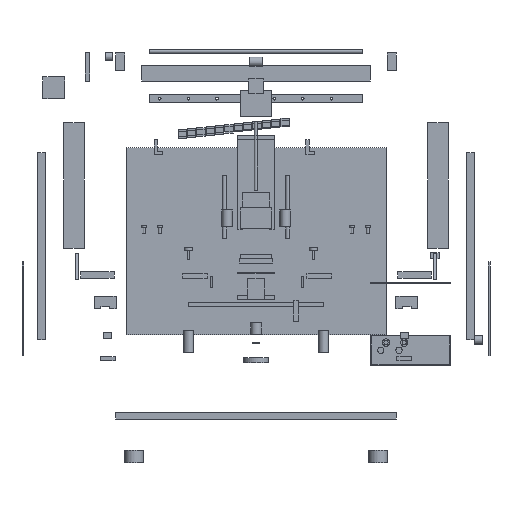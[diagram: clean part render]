
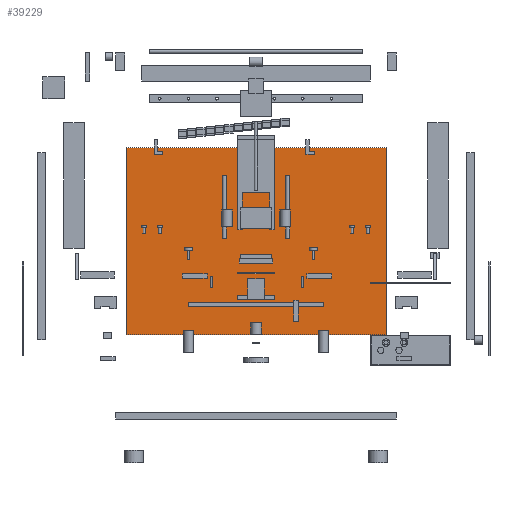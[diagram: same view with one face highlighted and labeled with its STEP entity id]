
A CAD part, front view. The second image highlights one B-rep face of the part: STEP entity #39229.
In plain terms, the highlighted planar face has unit normal (0, -1, 0).
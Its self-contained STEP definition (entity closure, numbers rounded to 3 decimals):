
#39013 = EDGE_CURVE('',#39014,#39016,#39018,.T.);
#39014 = VERTEX_POINT('',#39015);
#39015 = CARTESIAN_POINT('',(0.,0.,0.));
#39016 = VERTEX_POINT('',#39017);
#39017 = CARTESIAN_POINT('',(0.,0.,360.));
#39018 = SURFACE_CURVE('',#39019,(#39023,#39035),.PCURVE_S1.);
#39019 = LINE('',#39020,#39021);
#39020 = CARTESIAN_POINT('',(0.,0.,0.));
#39021 = VECTOR('',#39022,1.);
#39022 = DIRECTION('',(0.,0.,1.));
#39023 = PCURVE('',#39024,#39029);
#39024 = PLANE('',#39025);
#39025 = AXIS2_PLACEMENT_3D('',#39026,#39027,#39028);
#39026 = CARTESIAN_POINT('',(0.,0.,0.));
#39027 = DIRECTION('',(1.,0.,-0.));
#39028 = DIRECTION('',(0.,0.,1.));
#39029 = DEFINITIONAL_REPRESENTATION('',(#39030),#39034);
#39030 = LINE('',#39031,#39032);
#39031 = CARTESIAN_POINT('',(0.,0.));
#39032 = VECTOR('',#39033,1.);
#39033 = DIRECTION('',(1.,0.));
#39034 = ( GEOMETRIC_REPRESENTATION_CONTEXT(2) 
PARAMETRIC_REPRESENTATION_CONTEXT() REPRESENTATION_CONTEXT('2D SPACE',''
  ) );
#39035 = PCURVE('',#39036,#39041);
#39036 = PLANE('',#39037);
#39037 = AXIS2_PLACEMENT_3D('',#39038,#39039,#39040);
#39038 = CARTESIAN_POINT('',(0.,0.,0.));
#39039 = DIRECTION('',(-0.,1.,0.));
#39040 = DIRECTION('',(0.,0.,1.));
#39041 = DEFINITIONAL_REPRESENTATION('',(#39042),#39046);
#39042 = LINE('',#39043,#39044);
#39043 = CARTESIAN_POINT('',(0.,0.));
#39044 = VECTOR('',#39045,1.);
#39045 = DIRECTION('',(1.,0.));
#39046 = ( GEOMETRIC_REPRESENTATION_CONTEXT(2) 
PARAMETRIC_REPRESENTATION_CONTEXT() REPRESENTATION_CONTEXT('2D SPACE',''
  ) );
#39064 = PLANE('',#39065);
#39065 = AXIS2_PLACEMENT_3D('',#39066,#39067,#39068);
#39066 = CARTESIAN_POINT('',(0.,0.,0.));
#39067 = DIRECTION('',(0.,0.,1.));
#39068 = DIRECTION('',(1.,0.,-0.));
#39118 = PLANE('',#39119);
#39119 = AXIS2_PLACEMENT_3D('',#39120,#39121,#39122);
#39120 = CARTESIAN_POINT('',(0.,0.,360.));
#39121 = DIRECTION('',(0.,0.,1.));
#39122 = DIRECTION('',(1.,0.,-0.));
#39133 = EDGE_CURVE('',#39134,#39136,#39138,.T.);
#39134 = VERTEX_POINT('',#39135);
#39135 = CARTESIAN_POINT('',(500.,0.,0.));
#39136 = VERTEX_POINT('',#39137);
#39137 = CARTESIAN_POINT('',(500.,0.,360.));
#39138 = SURFACE_CURVE('',#39139,(#39143,#39155),.PCURVE_S1.);
#39139 = LINE('',#39140,#39141);
#39140 = CARTESIAN_POINT('',(500.,0.,0.));
#39141 = VECTOR('',#39142,1.);
#39142 = DIRECTION('',(0.,0.,1.));
#39143 = PCURVE('',#39144,#39149);
#39144 = PLANE('',#39145);
#39145 = AXIS2_PLACEMENT_3D('',#39146,#39147,#39148);
#39146 = CARTESIAN_POINT('',(500.,0.,0.));
#39147 = DIRECTION('',(1.,0.,-0.));
#39148 = DIRECTION('',(0.,0.,1.));
#39149 = DEFINITIONAL_REPRESENTATION('',(#39150),#39154);
#39150 = LINE('',#39151,#39152);
#39151 = CARTESIAN_POINT('',(0.,0.));
#39152 = VECTOR('',#39153,1.);
#39153 = DIRECTION('',(1.,0.));
#39154 = ( GEOMETRIC_REPRESENTATION_CONTEXT(2) 
PARAMETRIC_REPRESENTATION_CONTEXT() REPRESENTATION_CONTEXT('2D SPACE',''
  ) );
#39155 = PCURVE('',#39036,#39156);
#39156 = DEFINITIONAL_REPRESENTATION('',(#39157),#39161);
#39157 = LINE('',#39158,#39159);
#39158 = CARTESIAN_POINT('',(0.,500.));
#39159 = VECTOR('',#39160,1.);
#39160 = DIRECTION('',(1.,0.));
#39161 = ( GEOMETRIC_REPRESENTATION_CONTEXT(2) 
PARAMETRIC_REPRESENTATION_CONTEXT() REPRESENTATION_CONTEXT('2D SPACE',''
  ) );
#39229 = ADVANCED_FACE('',(#39230),#39036,.F.);
#39230 = FACE_BOUND('',#39231,.F.);
#39231 = EDGE_LOOP('',(#39232,#39253,#39254,#39275));
#39232 = ORIENTED_EDGE('',*,*,#39233,.F.);
#39233 = EDGE_CURVE('',#39014,#39134,#39234,.T.);
#39234 = SURFACE_CURVE('',#39235,(#39239,#39246),.PCURVE_S1.);
#39235 = LINE('',#39236,#39237);
#39236 = CARTESIAN_POINT('',(0.,0.,0.));
#39237 = VECTOR('',#39238,1.);
#39238 = DIRECTION('',(1.,0.,-0.));
#39239 = PCURVE('',#39036,#39240);
#39240 = DEFINITIONAL_REPRESENTATION('',(#39241),#39245);
#39241 = LINE('',#39242,#39243);
#39242 = CARTESIAN_POINT('',(0.,0.));
#39243 = VECTOR('',#39244,1.);
#39244 = DIRECTION('',(0.,1.));
#39245 = ( GEOMETRIC_REPRESENTATION_CONTEXT(2) 
PARAMETRIC_REPRESENTATION_CONTEXT() REPRESENTATION_CONTEXT('2D SPACE',''
  ) );
#39246 = PCURVE('',#39064,#39247);
#39247 = DEFINITIONAL_REPRESENTATION('',(#39248),#39252);
#39248 = LINE('',#39249,#39250);
#39249 = CARTESIAN_POINT('',(0.,0.));
#39250 = VECTOR('',#39251,1.);
#39251 = DIRECTION('',(1.,0.));
#39252 = ( GEOMETRIC_REPRESENTATION_CONTEXT(2) 
PARAMETRIC_REPRESENTATION_CONTEXT() REPRESENTATION_CONTEXT('2D SPACE',''
  ) );
#39253 = ORIENTED_EDGE('',*,*,#39013,.T.);
#39254 = ORIENTED_EDGE('',*,*,#39255,.T.);
#39255 = EDGE_CURVE('',#39016,#39136,#39256,.T.);
#39256 = SURFACE_CURVE('',#39257,(#39261,#39268),.PCURVE_S1.);
#39257 = LINE('',#39258,#39259);
#39258 = CARTESIAN_POINT('',(0.,0.,360.));
#39259 = VECTOR('',#39260,1.);
#39260 = DIRECTION('',(1.,0.,-0.));
#39261 = PCURVE('',#39036,#39262);
#39262 = DEFINITIONAL_REPRESENTATION('',(#39263),#39267);
#39263 = LINE('',#39264,#39265);
#39264 = CARTESIAN_POINT('',(360.,0.));
#39265 = VECTOR('',#39266,1.);
#39266 = DIRECTION('',(0.,1.));
#39267 = ( GEOMETRIC_REPRESENTATION_CONTEXT(2) 
PARAMETRIC_REPRESENTATION_CONTEXT() REPRESENTATION_CONTEXT('2D SPACE',''
  ) );
#39268 = PCURVE('',#39118,#39269);
#39269 = DEFINITIONAL_REPRESENTATION('',(#39270),#39274);
#39270 = LINE('',#39271,#39272);
#39271 = CARTESIAN_POINT('',(0.,0.));
#39272 = VECTOR('',#39273,1.);
#39273 = DIRECTION('',(1.,0.));
#39274 = ( GEOMETRIC_REPRESENTATION_CONTEXT(2) 
PARAMETRIC_REPRESENTATION_CONTEXT() REPRESENTATION_CONTEXT('2D SPACE',''
  ) );
#39275 = ORIENTED_EDGE('',*,*,#39133,.F.);
